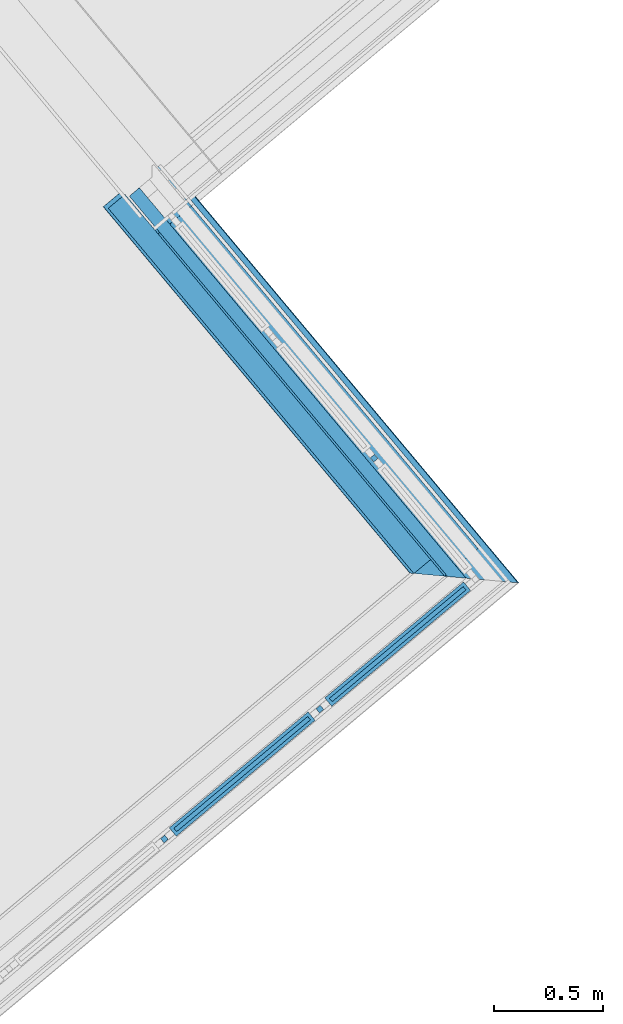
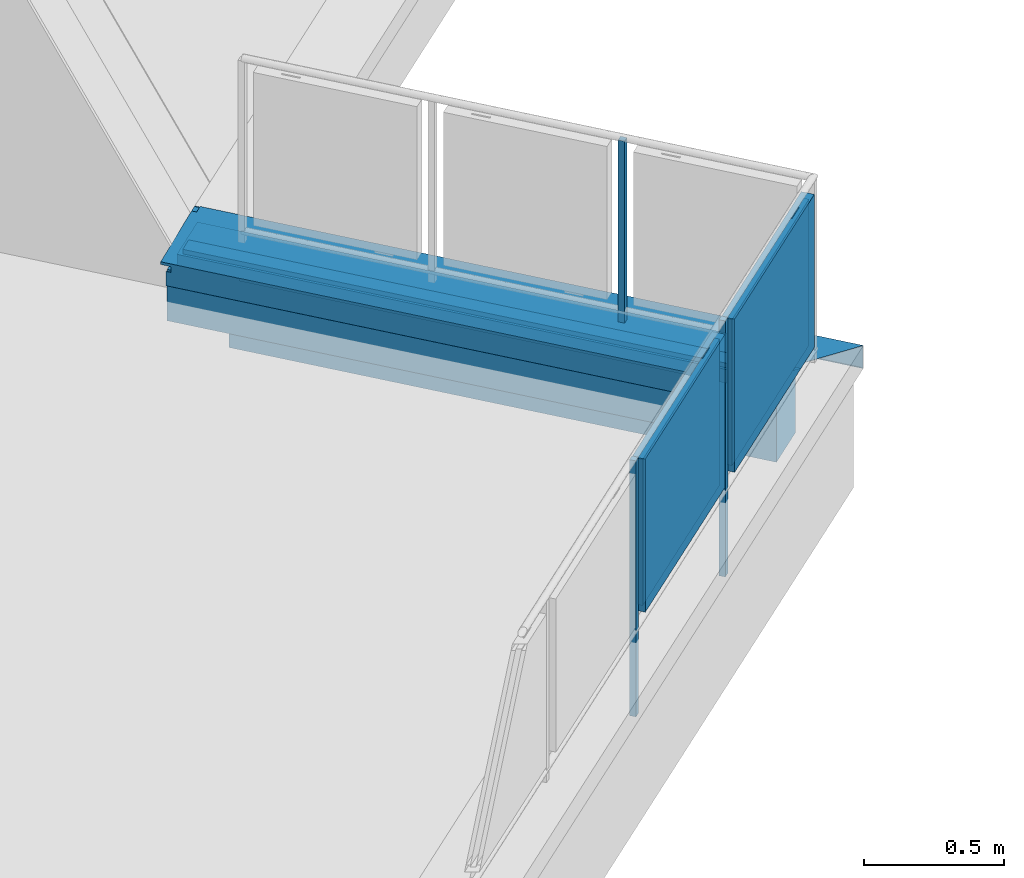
# One storey, part 20 of 58: 13 building element parts, 2 elements without a shape of their own.
"""IFC4 building model written with IfcOpenShell, lengths in metres."""

from ifc_helpers import new_model, entity, si_unit, converted_unit, derived_unit, direction, frame, origin_with_axes, place, context, subcontext, project, spatial, polygons, material, type_object, element, aggregate, save


model = new_model("IFC4")

# Units and contexts
model_context = context("Model", 3, precision=1e-05, world=origin_with_axes(), true_north=direction((0.0, 1.0)))
body_context = subcontext(model_context, "Body", "Model", "MODEL_VIEW")
ifc_project = project(units=[si_unit("LENGTHUNIT", "METRE"), si_unit("AREAUNIT", "SQUARE_METRE"), si_unit("VOLUMEUNIT", "CUBIC_METRE"), converted_unit("PLANEANGLEUNIT", "DEGREE", entity("IfcPlaneAngleMeasure", 0.0174532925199), si_unit("PLANEANGLEUNIT", "RADIAN"), dimensions=[0, 0, 0, 0, 0, 0, 0]), converted_unit("TIMEUNIT", "Year", entity("IfcTimeMeasure", 31556926.0), si_unit("TIMEUNIT", "SECOND"), dimensions=[0, 0, 1, 0, 0, 0, 0]), si_unit("MASSUNIT", "GRAM", prefix="KILO"), si_unit("THERMODYNAMICTEMPERATUREUNIT", "DEGREE_CELSIUS"), si_unit("LUMINOUSINTENSITYUNIT", "LUMEN"), si_unit("ENERGYUNIT", "JOULE", prefix="MEGA"), derived_unit("THERMALCONDUCTANCEUNIT", [(si_unit("POWERUNIT", "WATT"), 1), (si_unit("LENGTHUNIT", "METRE"), -1), (si_unit("THERMODYNAMICTEMPERATUREUNIT", "KELVIN"), -1)]), derived_unit("SPECIFICHEATCAPACITYUNIT", [(si_unit("ENERGYUNIT", "JOULE"), 1), (si_unit("MASSUNIT", "GRAM", prefix="KILO"), -1), (si_unit("THERMODYNAMICTEMPERATUREUNIT", "KELVIN"), -1)]), derived_unit("MASSDENSITYUNIT", [(si_unit("MASSUNIT", "GRAM", prefix="KILO"), 1), (si_unit("VOLUMEUNIT", "CUBIC_METRE"), -1)])], contexts=[model_context])

# Site, building, storey
site_placement = place(None, frame((-0.00153261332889, -0.00661245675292, 0.0), z_axis=(0.0, 0.0, 1.0), x_axis=(1.0, 0.0, 0.0)))
site = spatial("IfcSite", under=ifc_project, at=site_placement, Name="Site", CompositionType="ELEMENT")
building_placement = place(site_placement, origin_with_axes())
building = spatial("IfcBuilding", under=site, at=building_placement, Name="Building", CompositionType="ELEMENT")
storey_placement = place(building_placement, frame((0.0, 0.0, 5.7), z_axis=(0.0, 0.0, 1.0), x_axis=(1.0, 0.0, 0.0)))
storey = spatial("IfcBuildingStorey", under=building, at=storey_placement, Name="DG1", CompositionType="ELEMENT", Elevation=5.7)

# Wall, building element parts
wall_type = type_object("IfcWallType", Name="Bauteil - Attika Balkon 356 x 610", PredefinedType="NOTDEFINED")
wall_placement = place(storey_placement, frame((6.88564428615, 12.1266520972, -0.2), z_axis=(0.0, 0.0, 1.0), x_axis=(-0.641751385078, 0.766912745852, 0.0)))
wall = element("IfcWall", 1, at=wall_placement, inside=storey, type_object=wall_type, Name="Wand-003", PredefinedType="NOTDEFINED")
ifc_material_1 = material(Name="Stahl")
building_element_part_1_placement = place(wall_placement, origin_with_axes())
building_element_part_1 = element("IfcBuildingElementPart", 2, at=building_element_part_1_placement, material=ifc_material_1, Name="Stahl", PredefinedType="NOTDEFINED", context=body_context, shape_type="Tessellation", body=[
    polygons([(2.28816066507, 0.113600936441, 0.497561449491), (2.28816064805, 0.113600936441, 0.49999999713), (2.28816064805, 0.112247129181, 0.49999999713), (2.28816066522, 0.112247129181, 0.498915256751), (2.28816064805, 0.111162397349, 0.49999999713), (2.28816064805, 0.109247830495, 0.49999999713), (2.28816066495, 0.112643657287, 0.496604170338), (0.11366744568, 0.113600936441, 0.497561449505), (0.11366744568, 0.113600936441, 0.498915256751), (0.11366744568, 0.113600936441, 0.499999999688), (0.11366744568, 0.113600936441, 0.506731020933), (0.11366744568, 0.113600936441, 0.509099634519), (0.11366744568, 0.113600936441, 0.511410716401), (0.11366744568, 0.113600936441, 0.519273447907), (0.11366744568, 0.113600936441, 0.560000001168), (0.11366744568, 0.113600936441, 0.575576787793), (0.11366744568, 0.113600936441, 0.57982217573), (0.11366744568, 0.113600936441, 0.581921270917), (0.11366744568, 0.113600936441, 0.584015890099), (0.11366744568, 0.113600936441, 0.586106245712), (0.11366744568, 0.113600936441, 0.595846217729), (0.11366744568, 0.113600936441, 0.597151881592), (2.30819672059, 0.113600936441, 0.597151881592), (2.30855126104, 0.113600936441, 0.585743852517), (2.26892354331, 0.113600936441, 0.58451230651), (2.26901216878, 0.113600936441, 0.560000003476), (2.28816065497, 0.113600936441, 0.560000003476), (2.28816065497, 0.112247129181, 0.560000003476), (2.26901216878, 0.112247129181, 0.560000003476), (2.26892354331, 0.112247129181, 0.58451230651), (2.30855126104, 0.112247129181, 0.585743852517), (2.30823729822, 0.112247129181, 0.595846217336), (0.113666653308, 0.112247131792, 0.595846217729), (0.113666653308, 0.112247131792, 0.586106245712), (0.113666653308, 0.112247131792, 0.584015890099), (0.113666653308, 0.112247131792, 0.581921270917), (0.113666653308, 0.112247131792, 0.57982217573), (0.113666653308, 0.112247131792, 0.575576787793), (0.113666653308, 0.112247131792, 0.560000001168), (0.113666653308, 0.112247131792, 0.519273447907), (0.113666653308, 0.112247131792, 0.511410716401), (0.113666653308, 0.112247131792, 0.509099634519), (0.113666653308, 0.112247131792, 0.506731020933), (0.113666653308, 0.112247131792, 0.499999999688), (0.113666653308, 0.112247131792, 0.498915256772), (0.112312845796, 0.112247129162, 0.498915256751), (0.111227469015, 0.111162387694, 0.499999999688), (0.104492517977, 0.104431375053, 0.506731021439), (2.28816064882, 0.104431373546, 0.506731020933), (2.28816064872, 0.103427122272, 0.505820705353), (0.105402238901, 0.103427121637, 0.505820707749), (0.111226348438, 0.109247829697, 0.499999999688), (0.11231172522, 0.110332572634, 0.498915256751), (0.11366553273, 0.110332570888, 0.498915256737), (0.113666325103, 0.11168637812, 0.497561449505), (0.11270960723, 0.112643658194, 0.496604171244), (0.113645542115, 0.076177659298, 0.597151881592), (2.30791770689, -0.134301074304, 0.606129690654), (-0.201826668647, -0.201708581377, 0.608570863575), (-0.204072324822, -0.203952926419, 0.608652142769), (-0.242849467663, -0.242707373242, 0.610055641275), (2.28816065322, -0.242707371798, 0.610055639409), (2.28816065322, -0.171687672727, 0.607483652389), (2.30787743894, -0.171687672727, 0.607483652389), (2.30791770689, -0.171838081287, 0.606129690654), (2.30787743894, -0.209241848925, 0.607483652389), (2.28816065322, -0.209241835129, 0.607483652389), (2.28816065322, -0.23927649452, 0.608570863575), (-0.201848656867, -0.23927649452, 0.608570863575), (-0.204094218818, -0.24135985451, 0.608652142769), (-0.20409500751, -0.242707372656, 0.608652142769), (2.30791770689, -0.242707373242, 0.606129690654), (2.30787743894, -0.242707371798, 0.607483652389), (2.28816065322, -0.242707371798, 0.607483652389), (-0.241502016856, -0.242707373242, 0.60865214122), (-0.241502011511, -0.242707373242, 0.608570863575), (-0.241501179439, -0.242707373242, 0.595846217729), (-0.241500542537, -0.242707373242, 0.586106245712), (-0.241500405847, -0.242707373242, 0.584015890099), (-0.241500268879, -0.242707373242, 0.581921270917), (-0.241500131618, -0.242707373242, 0.57982217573), (-0.24149985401, -0.242707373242, 0.575576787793), (-0.241498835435, -0.242707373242, 0.560000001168), (-0.241496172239, -0.242707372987, 0.519273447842), (-0.241495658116, -0.242707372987, 0.511410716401), (-0.239581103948, -0.242707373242, 0.511410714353), (-0.240934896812, -0.242707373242, 0.510056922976), (2.05142693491, -0.242707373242, 0.510056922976), (2.05133740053, -0.242707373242, 0.511410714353), (2.05081739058, -0.242707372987, 0.519273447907), (2.04812389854, -0.242707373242, 0.560000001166), (2.04709371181, -0.242707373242, 0.575576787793), (2.04695865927, -0.242707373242, 0.577618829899), (2.04685377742, -0.242707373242, 0.579204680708), (2.04681293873, -0.242707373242, 0.57982217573), (2.04673066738, -0.242707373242, 0.581066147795), (2.04667411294, -0.242707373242, 0.581921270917), (2.04662543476, -0.242707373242, 0.582657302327), (2.04653558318, -0.242707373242, 0.584015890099), (2.04650275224, -0.242707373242, 0.584512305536), (2.04639733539, -0.242707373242, 0.586106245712), (2.04575317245, -0.242707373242, 0.595846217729), (2.04558999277, -0.242707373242, 0.598313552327), (2.04646649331, -0.242707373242, 0.598339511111), (2.28816065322, -0.241359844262, 0.607483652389), (2.28816065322, -0.24135992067, 0.60865214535), (-0.241501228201, -0.241359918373, 0.608652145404), (2.30791770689, -0.241359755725, 0.606129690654), (2.30787743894, -0.241359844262, 0.607483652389), (-0.241501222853, -0.241359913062, 0.608570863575), (-0.241500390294, -0.24135908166, 0.595846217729), (-0.241499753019, -0.24135844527, 0.586106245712), (-0.24149961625, -0.24135830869, 0.584015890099), (-0.241499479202, -0.241358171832, 0.581921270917), (-0.24149934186, -0.241358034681, 0.57982217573), (-0.24149906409, -0.241357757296, 0.575576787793), (-0.241498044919, -0.241356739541, 0.560000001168), (-0.241495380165, -0.241354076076, 0.519273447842), (-0.24149486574, -0.241353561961, 0.511410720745), (-0.239580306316, -0.241353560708, 0.511410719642), (-0.239579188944, -0.239439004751, 0.511410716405), (-0.241891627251, -0.241750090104, 0.509099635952), (2.0514902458, -0.241750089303, 0.509099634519), (2.05145397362, -0.242298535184, 0.509648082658), (2.05145397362, -0.241201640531, 0.509648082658), (2.0513374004, -0.239439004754, 0.511410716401), (2.05133740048, -0.241353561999, 0.511410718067), (2.05081739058, -0.241354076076, 0.519273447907), (2.04812389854, -0.241356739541, 0.560000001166), (2.04709371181, -0.241357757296, 0.575576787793), (2.04695865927, -0.241357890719, 0.577618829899), (2.04685377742, -0.241357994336, 0.579204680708), (2.04681293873, -0.241358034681, 0.57982217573), (2.04673066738, -0.24135811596, 0.581066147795), (2.04667411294, -0.241358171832, 0.581921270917), (2.04662543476, -0.241358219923, 0.582657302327), (2.04653558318, -0.24135830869, 0.584015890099), (2.04650275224, -0.241358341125, 0.584512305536), (2.04639733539, -0.24135844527, 0.586106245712), (2.04575317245, -0.24135908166, 0.595846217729), (2.04558999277, -0.241359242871, 0.598313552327), (2.04646649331, -0.241359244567, 0.598339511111), (2.28816065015, -0.232580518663, 0.518269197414), (2.2881606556, -0.239439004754, 0.511410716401), (2.07316067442, -0.239439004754, 0.511410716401), (-0.232716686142, -0.232580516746, 0.518269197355), (-0.232717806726, -0.234495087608, 0.518269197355), (2.07316068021, -0.241353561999, 0.511410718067), (2.28816064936, -0.241353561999, 0.511410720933), (2.28816065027, -0.233490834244, 0.519273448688), (-0.233627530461, -0.233490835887, 0.519273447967)], [[[1, 2, 3, 4, 5, 6, 7]], [[2, 1, 8, 9, 10, 11, 12, 13, 14, 15, 16, 17, 18, 19, 20, 21, 22, 23, 24, 25, 26, 27]], [[2, 27, 28, 3]], [[4, 3, 28, 29, 30, 31, 32, 33, 34, 35, 36, 37, 38, 39, 40, 41, 42, 43, 44, 45]], [[5, 4, 45, 46, 47, 48, 49]], [[6, 5, 49, 50]], [[7, 6, 50, 51, 52, 53, 54, 55, 56]], [[1, 7, 56, 8]], [[45, 9, 8, 55, 54]], [[10, 9, 45, 44]], [[11, 10, 44, 43]], [[12, 11, 43, 42]], [[13, 12, 42, 41]], [[14, 13, 41, 40]], [[15, 14, 40, 39]], [[16, 15, 39, 38]], [[17, 16, 38, 37]], [[17, 37, 36, 18]], [[19, 18, 36, 35]], [[20, 19, 35, 34]], [[21, 20, 34, 33]], [[22, 21, 33, 57]], [[58, 23, 22, 59, 60, 61, 62, 63, 64]], [[31, 24, 23, 58, 65, 32]], [[30, 25, 24, 31]], [[29, 26, 25, 30]], [[28, 27, 26, 29]], [[32, 65, 66, 67, 68, 69, 57, 33]], [[46, 45, 54, 53]], [[47, 46, 53, 52]], [[51, 48, 47, 52]], [[50, 49, 48, 51]], [[8, 56, 55]], [[22, 57, 69, 59]], [[60, 59, 69, 70]], [[61, 60, 70, 71]], [[72, 73, 74, 62, 61, 71, 75, 76, 77, 78, 79, 80, 81, 82, 83, 84, 85, 86, 87, 88, 89, 90, 91, 92, 93, 94, 95, 96, 97, 98, 99, 100, 101, 102, 103, 104]], [[67, 63, 62, 74, 105, 106, 68]], [[64, 63, 67, 66]], [[58, 64, 66, 65]], [[68, 106, 70, 69]], [[107, 75, 71, 70]], [[108, 109, 73, 72]], [[109, 105, 74, 73]], [[110, 76, 75, 107]], [[110, 111, 77, 76]], [[111, 112, 78, 77]], [[112, 113, 79, 78]], [[113, 114, 80, 79]], [[115, 81, 80, 114]], [[115, 116, 82, 81]], [[116, 117, 83, 82]], [[117, 118, 84, 83]], [[118, 119, 85, 84]], [[119, 120, 86, 85]], [[121, 122, 87, 86, 120]], [[122, 123, 124, 88, 87]], [[125, 126, 127, 89, 88, 124]], [[127, 128, 90, 89]], [[90, 128, 129, 91]], [[129, 130, 92, 91]], [[130, 131, 93, 92]], [[131, 132, 94, 93]], [[132, 133, 95, 94]], [[133, 134, 96, 95]], [[134, 135, 97, 96]], [[135, 136, 98, 97]], [[136, 137, 99, 98]], [[137, 138, 100, 99]], [[138, 139, 101, 100]], [[139, 140, 102, 101]], [[102, 140, 141, 103]], [[141, 142, 104, 103]], [[108, 72, 104, 142]], [[109, 108, 142, 141, 140, 139, 138, 137, 136, 135, 134, 133, 132, 131, 130, 129, 128, 127, 120, 119, 118, 117, 116, 115, 114, 113, 112, 111, 110, 107, 70, 106, 105]], [[143, 144, 145, 126, 125, 123, 122, 121, 146]], [[146, 121, 120, 147]], [[123, 125, 124]], [[127, 126, 145, 148]], [[149, 150, 151, 147, 120, 127, 148]], [[143, 150, 149, 144]], [[144, 149, 148, 145]], [[150, 143, 146, 151]], [[146, 147, 151]]], closed=True),
])
ifc_material_2 = material(Name="Holzwerkstoff")
building_element_part_2_placement = place(wall_placement, origin_with_axes())
building_element_part_2 = element("IfcBuildingElementPart", 3, at=building_element_part_2_placement, material=ifc_material_2, Name="Holzwerkstoff", PredefinedType="NOTDEFINED", context=body_context, shape_type="Tessellation", body=[
    polygons([(2.26892354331, 0.111851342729, 0.58451230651), (2.26895585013, 0.111539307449, 0.575576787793), (0.111604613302, 0.111539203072, 0.575576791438), (0.111752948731, 0.111687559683, 0.579822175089), (0.111826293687, 0.111760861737, 0.581921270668), (0.111899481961, 0.11183400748, 0.584015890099), (0.111972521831, 0.111907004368, 0.586106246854), (0.112312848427, 0.112247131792, 0.5958462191), (2.30823729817, 0.112247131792, 0.5958462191), (2.30855126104, 0.111894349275, 0.585743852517), (2.26894050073, -0.0100326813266, 0.579822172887), (2.26892354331, -0.144340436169, 0.58451230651), (2.26892533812, -0.13012497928, 0.584015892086), (2.26893291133, -0.0701429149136, 0.581921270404), (0.111681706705, -0.0100326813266, 0.579822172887), (0.111719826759, -0.0701429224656, 0.581921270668), (0.111757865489, -0.130124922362, 0.584015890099), (0.111795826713, -0.189984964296, 0.586106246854), (0.111827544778, -0.23999998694, 0.587852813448), (0.112106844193, -0.239720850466, 0.5958462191), (2.30791770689, -0.171838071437, 0.606129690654), (-0.239416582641, -0.239276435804, 0.608570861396), (2.28816065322, -0.23927649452, 0.608570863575), (2.28816065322, -0.209241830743, 0.607483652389), (2.30787743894, -0.209241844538, 0.607483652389), (2.30791770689, -0.239361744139, 0.606129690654), (2.30848571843, -0.23999998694, 0.587852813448), (2.30853999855, -0.189984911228, 0.586106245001), (2.30855126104, -0.179607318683, 0.585743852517), (2.30787743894, -0.239314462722, 0.607483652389), (2.28816065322, -0.23931446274, 0.607483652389)], [[[1, 2, 3, 4, 5, 6, 7, 8, 9, 10]], [[11, 2, 1, 12, 13, 14]], [[2, 11, 15, 3]], [[4, 3, 15]], [[5, 4, 15, 16]], [[6, 5, 16, 17]], [[7, 6, 17, 18]], [[8, 7, 18, 19, 20]], [[21, 9, 8, 22, 23, 24, 25]], [[10, 9, 21, 26, 27, 28, 29]], [[1, 10, 29, 12]], [[13, 12, 29, 28, 18, 17]], [[14, 13, 17, 16]], [[11, 14, 16, 15]], [[18, 28, 27, 19]], [[30, 31, 23, 22, 20, 19, 27, 26]], [[22, 8, 20]], [[31, 24, 23]], [[24, 31, 30, 25]], [[21, 25, 30, 26]]], closed=True),
])
ifc_material_3 = material(Name="EPS 1")
building_element_part_3_placement = place(wall_placement, origin_with_axes())
building_element_part_3 = element("IfcBuildingElementPart", 4, at=building_element_part_3_placement, material=ifc_material_3, Name="EPS 1", PredefinedType="NOTDEFINED", context=body_context, shape_type="Tessellation", body=[
    polygons([(0.100058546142, 0.0999999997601, 0.560000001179), (0.100000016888, -2.39909425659e-10, 0.560000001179), (2.28816065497, -2.39909425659e-10, 0.560000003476), (2.28816065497, 0.0999999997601, 0.560000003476), (0.100000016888, -2.39911202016e-10, 0.519273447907), (0.100058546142, 0.0999999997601, 0.519273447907), (0.100000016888, -2.39911202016e-10, 0.511410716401), (0.100000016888, -2.39911202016e-10, 0.509099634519), (0.100000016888, -2.39911202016e-10, 0.506731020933), (0.100000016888, -2.39911202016e-10, 0.499999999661), (0.100000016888, -2.39911202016e-10, 0.498915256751), (0.100000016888, -2.39911202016e-10, 0.496604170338), (0.100000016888, -2.39911202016e-10, 0.334999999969), (2.28816064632, -2.39911202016e-10, 0.334999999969), (2.28816064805, -2.39909425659e-10, 0.49999999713), (2.28816064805, 0.0999999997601, 0.49999999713), (2.28816064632, 0.0999999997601, 0.334999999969), (0.100058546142, 0.0999999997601, 0.334999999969), (0.100058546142, 0.0999999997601, 0.496604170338), (0.100058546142, 0.0999999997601, 0.498915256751), (0.100058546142, 0.0999999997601, 0.499999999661), (0.100058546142, 0.0999999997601, 0.506731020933), (0.100058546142, 0.0999999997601, 0.509099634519), (0.100058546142, 0.0999999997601, 0.511410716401)], [[[1, 2, 3, 4]], [[5, 2, 1, 6]], [[2, 5, 7, 8, 9, 10, 11, 12, 13, 14, 15, 3]], [[16, 4, 3, 15]], [[6, 1, 4, 16, 17, 18, 19, 20, 21, 22, 23, 24]], [[5, 6, 24, 7]], [[7, 24, 23, 8]], [[8, 23, 22, 9]], [[9, 22, 21, 10]], [[10, 21, 20, 11]], [[11, 20, 19, 12]], [[12, 19, 18, 13]], [[13, 18, 17, 14]], [[16, 15, 14, 17]]], closed=True),
])
ifc_material_4 = material(Name="Vollholz")
building_element_part_4_placement = place(wall_placement, origin_with_axes())
building_element_part_4 = element("IfcBuildingElementPart", 5, at=building_element_part_4_placement, material=ifc_material_4, Name="Vollholz", PredefinedType="NOTDEFINED", context=body_context, shape_type="Tessellation", body=[
    polygons([(-0.0100385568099, -0.0100326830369, 0.579822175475), (-0.0701839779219, -0.0701429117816, 0.581921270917), (2.26893291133, -0.0701429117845, 0.581921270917), (2.26894050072, -0.0100326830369, 0.579822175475), (-0.0100737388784, -0.0701429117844, 0.579822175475), (-0.0100973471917, -0.0701429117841, 0.575576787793), (-0.010183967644, -0.0701429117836, 0.560000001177), (2.26901216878, -0.0701429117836, 0.560000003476), (2.26901216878, -0.0101429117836, 0.560000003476), (-0.0100621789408, -0.0100562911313, 0.575576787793), (-0.0101488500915, -0.0101429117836, 0.560000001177)], [[[1, 2, 3, 4]], [[5, 2, 1]], [[2, 5, 6, 7, 8, 3]], [[9, 4, 3, 8]], [[10, 1, 4, 9, 11]], [[5, 1, 10, 6]], [[6, 10, 11, 7]], [[7, 11, 9, 8]]], closed=True),
])
ifc_material_5 = material(Name="Stahlbeton")
building_element_part_5_placement = place(wall_placement, origin_with_axes())
building_element_part_5 = element("IfcBuildingElementPart", 6, at=building_element_part_5_placement, material=ifc_material_5, Name="Stahlbeton", PredefinedType="NOTDEFINED", context=body_context, shape_type="Tessellation", body=[
    polygons([(2.05176382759, -0.19999996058, 0.498951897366), (2.0507455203, -0.19999996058, 0.499843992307), (2.05073521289, -0.19999996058, 0.499999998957), (-0.000117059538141, -0.19999996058, 0.500000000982), (-0.00011705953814, -0.19999996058, 0.498915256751), (-0.00011705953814, -0.19999996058, 0.496604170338), (-0.00011705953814, -0.19999996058, 0.334999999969), (-0.000117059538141, -0.19999996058, 0.2), (2.08816069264, -0.19999996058, 0.2), (2.08816069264, -0.19999996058, 0.334999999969), (2.08816069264, -0.19999996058, 0.496604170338), (2.08816069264, -0.19999996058, 0.498915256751), (2.0881606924, -0.19999996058, 0.498951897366), (2.07316067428, -0.19999996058, 0.498951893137), (2.05176382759, -1.0529745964e-09, 0.498951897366), (2.0507455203, -1.0529745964e-09, 0.499843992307), (2.05073521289, -1.0529745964e-09, 0.499999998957), (-1.05358921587e-09, -1.05297282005e-09, 0.500000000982), (-1.05358921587e-09, -1.05297282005e-09, 0.498915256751), (-1.05358921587e-09, -1.05297282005e-09, 0.496604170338), (-1.05358921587e-09, -1.05297282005e-09, 0.334999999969), (-1.05358921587e-09, -1.05297282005e-09, 0.2), (2.08816069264, -1.0529745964e-09, 0.2), (2.08816069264, -1.0529745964e-09, 0.334999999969), (2.08816069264, -1.0529745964e-09, 0.496604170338), (2.08816069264, -1.0529745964e-09, 0.498915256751), (2.0881606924, -1.0529745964e-09, 0.498951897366), (2.07316067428, -1.0529745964e-09, 0.498951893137)], [[[1, 2, 3, 4, 5, 6, 7, 8, 9, 10, 11, 12, 13, 14]], [[2, 1, 15, 16]], [[17, 3, 2, 16]], [[3, 17, 18, 4]], [[5, 4, 18, 19]], [[5, 19, 20, 6]], [[6, 20, 21, 7]], [[7, 21, 22, 8]], [[23, 9, 8, 22]], [[24, 10, 9, 23]], [[25, 11, 10, 24]], [[26, 12, 11, 25]], [[27, 13, 12, 26]], [[28, 14, 13, 27]], [[15, 1, 14, 28]], [[16, 15, 28, 27, 26, 25, 24, 21, 20, 19, 18, 17]], [[24, 23, 22, 21]]], closed=True),
])
ifc_material_6 = material(Name="Brettschichtholz")
building_element_part_6_placement = place(wall_placement, origin_with_axes())
building_element_part_6 = element("IfcBuildingElementPart", 7, at=building_element_part_6_placement, material=ifc_material_6, Name="Brettschichtholz", PredefinedType="NOTDEFINED", context=body_context, shape_type="Tessellation", body=[
    polygons([(-0.000111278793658, -0.190124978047, 0.560000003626), (-0.000125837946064, -0.214999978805, 0.560000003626), (2.28816065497, -0.214999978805, 0.560000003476), (2.28816065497, -0.190124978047, 0.560000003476), (-0.000125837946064, -0.214999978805, 0.519273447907), (-7.61612388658e-05, -0.130124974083, 0.560000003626), (-4.10541848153e-05, -0.0701429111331, 0.560000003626), (-5.93663490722e-06, -0.010142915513, 0.560000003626), (0.0, 0.0, 0.560000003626), (0.0, 0.0, 0.519273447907), (-0.000125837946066, -0.214999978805, 0.511410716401), (-0.000125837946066, -0.214999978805, 0.509099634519), (-0.000125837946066, -0.214999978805, 0.506731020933), (-0.000125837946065, -0.214999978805, 0.499999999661), (2.05073521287, -0.214999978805, 0.499999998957), (2.05065037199, -0.214999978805, 0.501284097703), (2.05029049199, -0.214999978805, 0.506731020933), (2.05013399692, -0.214999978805, 0.509099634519), (2.05149024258, -0.214999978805, 0.509099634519), (2.05885392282, -0.214999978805, 0.509099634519), (2.05933439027, -0.214999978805, 0.509648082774), (2.07316068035, -0.214999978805, 0.509648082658), (2.2881606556, -0.214999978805, 0.509648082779), (2.2881606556, 0.0, 0.509648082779), (2.28816065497, 0.0, 0.560000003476), (2.28816065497, -0.010142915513, 0.560000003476), (2.28816065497, -0.0701429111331, 0.560000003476), (2.28816065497, -0.130124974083, 0.560000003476), (2.07316068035, 0.0, 0.509648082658), (2.05933439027, 0.0, 0.509648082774), (2.05885392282, 0.0, 0.509099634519), (2.05149024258, 0.0, 0.509099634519), (2.05013399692, 0.0, 0.509099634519), (2.05029049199, 0.0, 0.506731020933), (2.05065037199, 0.0, 0.501284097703), (2.05073521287, 0.0, 0.499999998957), (0.0, 0.0, 0.499999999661), (0.0, 0.0, 0.506731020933), (0.0, 0.0, 0.509099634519), (0.0, 0.0, 0.511410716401)], [[[1, 2, 3, 4]], [[5, 2, 1, 6, 7, 8, 9, 10]], [[2, 5, 11, 12, 13, 14, 15, 16, 17, 18, 19, 20, 21, 22, 23, 3]], [[23, 24, 25, 26, 27, 28, 4, 3]], [[6, 1, 4, 28]], [[7, 6, 28, 27]], [[8, 7, 27, 26]], [[9, 8, 26, 25]], [[10, 9, 25, 24, 29, 30, 31, 32, 33, 34, 35, 36, 37, 38, 39, 40]], [[5, 10, 40, 11]], [[11, 40, 39, 12]], [[12, 39, 38, 13]], [[13, 38, 37, 14]], [[36, 15, 14, 37]], [[35, 16, 15, 36]], [[34, 17, 16, 35]], [[18, 17, 34, 33]], [[19, 18, 33, 32]], [[31, 20, 19, 32]], [[21, 20, 31, 30]], [[21, 30, 29, 22]], [[22, 29, 24, 23]]], closed=True),
])
aggregate(wall, [building_element_part_1, building_element_part_2, building_element_part_3, building_element_part_4, building_element_part_5, building_element_part_6])

# Railing, building element parts
railing_type = type_object("IfcRailingType", Name="Geländerart", PredefinedType="NOTDEFINED")
railing_placement = place(storey_placement, frame((-1.26757951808, 10.1438545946, 0.38), z_axis=(0.0, 0.0, 1.0), x_axis=(1.0, 0.0, 0.0)))
railing = element("IfcRailing", 8, at=railing_placement, inside=storey, type_object=railing_type, Name="Geländer - 001", PredefinedType="NOTDEFINED")
ifc_material_7 = material(Name="Aluminium")
building_element_part_7_placement = place(railing_placement, origin_with_axes())
building_element_part_7 = element("IfcBuildingElementPart", 9, at=building_element_part_7_placement, material=ifc_material_7, Name="Aluminium", PredefinedType="NOTDEFINED", context=body_context, shape_type="Tessellation", body=[
    polygons([(6.8836808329, 0.773895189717, -0.3), (6.86765100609, 0.793079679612, -0.3), (6.86765100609, 0.793079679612, 0.82), (6.8836808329, 0.773895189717, 0.82), (6.86449634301, 0.75786536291, -0.3), (6.8484665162, 0.777049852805, -0.3), (6.8484665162, 0.777049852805, 0.82), (6.86449634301, 0.75786536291, 0.82)], [[[1, 2, 3, 4]], [[1, 5, 6, 2]], [[2, 6, 7, 3]], [[4, 3, 7, 8]], [[5, 1, 4, 8]], [[6, 5, 8, 7]]], closed=True),
])
ifc_material_8 = material(Name="Profilit")
building_element_part_8_placement = place(railing_placement, origin_with_axes())
building_element_part_8 = element("IfcBuildingElementPart", 10, at=building_element_part_8_placement, material=ifc_material_8, Name="Profilit", PredefinedType="NOTDEFINED", context=body_context, shape_type="Tessellation", body=[
    polygons([(7.52418472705, 1.33839633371, 0.135), (6.90954141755, 0.824823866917, 0.135), (6.90954141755, 0.824823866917, 0.775), (7.52418472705, 1.33839633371, 0.775), (6.922365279, 0.809476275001, 0.135), (7.5370085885, 1.32304874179, 0.135), (6.922365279, 0.809476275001, 0.775), (7.5370085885, 1.32304874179, 0.775)], [[[1, 2, 3, 4]], [[5, 2, 1, 6]], [[7, 3, 2, 5]], [[4, 3, 7, 8]], [[1, 4, 8, 6]], [[7, 5, 6, 8]]], closed=True),
])
building_element_part_9_placement = place(railing_placement, origin_with_axes())
building_element_part_9 = element("IfcBuildingElementPart", 11, at=building_element_part_9_placement, material=ifc_material_7, Name="Aluminium", PredefinedType="NOTDEFINED", context=body_context, shape_type="Tessellation", body=[
    polygons([(6.97957763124, 0.873569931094, 0.12), (7.03329420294, 0.918453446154, 0.12), (7.03329420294, 0.918453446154, 0.095), (6.97957763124, 0.873569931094, 0.095), (6.9827835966, 0.869733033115, 0.12), (7.03650016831, 0.914616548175, 0.12), (7.03650016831, 0.914616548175, 0.095), (6.9827835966, 0.869733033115, 0.095)], [[[1, 2, 3, 4]], [[5, 6, 2, 1]], [[2, 6, 7, 3]], [[4, 3, 7, 8]], [[1, 4, 8, 5]], [[8, 7, 6, 5]]], closed=True),
    polygons([(7.46376640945, 1.27813957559, 0.79), (7.41004983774, 1.23325606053, 0.79), (7.41004983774, 1.23325606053, 0.795), (7.46376640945, 1.27813957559, 0.795), (7.46697237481, 1.27430267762, 0.79), (7.41325580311, 1.22941916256, 0.79), (7.41325580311, 1.22941916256, 0.795), (7.46697237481, 1.27430267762, 0.795)], [[[1, 2, 3, 4]], [[5, 6, 2, 1]], [[2, 6, 7, 3]], [[4, 3, 7, 8]], [[1, 4, 8, 5]], [[8, 7, 6, 5]]], closed=True),
    polygons([(6.92047248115, 0.78834768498, 0.12), (6.88841282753, 0.82671666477, 0.12), (7.5260775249, 1.35952492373, 0.12), (7.55813717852, 1.32115594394, 0.12), (6.93582007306, 0.801171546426, 0.14), (6.92620217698, 0.812682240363, 0.14), (6.922365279, 0.809476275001, 0.135), (6.90954141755, 0.824823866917, 0.135), (6.91337831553, 0.828029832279, 0.14), (6.90376041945, 0.839540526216, 0.14), (7.51072993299, 1.34670106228, 0.14), (7.51072993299, 1.34670106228, 0.77), (6.90376041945, 0.839540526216, 0.77), (6.90376041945, 0.839540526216, 0.14), (6.88841282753, 0.82671666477, 0.12), (6.88841282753, 0.82671666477, 0.79), (7.5260775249, 1.35952492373, 0.79), (7.55813717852, 1.32115594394, 0.79), (6.92047248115, 0.78834768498, 0.79), (6.92047248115, 0.78834768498, 0.12), (6.93582007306, 0.801171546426, 0.14), (6.93582007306, 0.801171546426, 0.77), (7.5427895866, 1.30833208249, 0.77), (7.5427895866, 1.30833208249, 0.14), (7.53317169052, 1.31984277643, 0.14), (7.53317169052, 1.31984277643, 0.77), (6.92620217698, 0.812682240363, 0.77), (6.92620217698, 0.812682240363, 0.14), (6.922365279, 0.809476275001, 0.135), (6.922365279, 0.809476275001, 0.775), (7.5370085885, 1.32304874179, 0.775), (7.5370085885, 1.32304874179, 0.135), (7.52418472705, 1.33839633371, 0.135), (7.52418472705, 1.33839633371, 0.775), (6.90954141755, 0.824823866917, 0.775), (6.90954141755, 0.824823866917, 0.135), (6.91337831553, 0.828029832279, 0.14), (6.91337831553, 0.828029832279, 0.77), (7.52034782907, 1.33519036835, 0.77), (7.52034782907, 1.33519036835, 0.14)], [[[1, 2, 3, 4]], [[1, 5, 6, 7, 8, 9, 10, 2]], [[2, 10, 11, 12, 13, 14, 15, 16, 17, 3]], [[4, 3, 17, 18]], [[5, 1, 4, 18, 19, 20, 21, 22, 23, 24]], [[6, 5, 24, 25]], [[7, 6, 25, 26, 27, 28, 29, 30, 31, 32]], [[8, 7, 32, 33]], [[9, 8, 33, 34, 35, 36, 37, 38, 39, 40]], [[10, 9, 40, 11]], [[11, 40, 39, 12]], [[12, 39, 38, 13]], [[13, 38, 37, 14]], [[20, 15, 14, 37, 36, 29, 28, 21]], [[19, 16, 15, 20]], [[18, 17, 16, 19]], [[27, 22, 21, 28]], [[26, 23, 22, 27]], [[25, 24, 23, 26]], [[35, 30, 29, 36]], [[34, 31, 30, 35]], [[33, 32, 31, 34]]], closed=True),
])
building_element_part_10_placement = place(railing_placement, origin_with_axes())
building_element_part_10 = element("IfcBuildingElementPart", 12, at=building_element_part_10_placement, material=ifc_material_7, Name="Aluminium", PredefinedType="NOTDEFINED", context=body_context, shape_type="Tessellation", body=[
    polygons([(7.59808348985, 1.3708227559, -0.3), (7.58205366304, 1.3900072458, -0.3), (7.58205366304, 1.3900072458, 0.82), (7.59808348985, 1.3708227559, 0.82), (7.57889899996, 1.3547929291, -0.3), (7.56286917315, 1.37397741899, -0.3), (7.56286917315, 1.37397741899, 0.82), (7.57889899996, 1.3547929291, 0.82)], [[[1, 2, 3, 4]], [[1, 5, 6, 2]], [[2, 6, 7, 3]], [[4, 3, 7, 8]], [[5, 1, 4, 8]], [[6, 5, 8, 7]]], closed=True),
])
building_element_part_11_placement = place(railing_placement, origin_with_axes())
building_element_part_11 = element("IfcBuildingElementPart", 13, at=building_element_part_11_placement, material=ifc_material_8, Name="Profilit", PredefinedType="NOTDEFINED", context=body_context, shape_type="Tessellation", body=[
    polygons([(8.238587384, 1.9353238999, 0.135), (7.6239440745, 1.42175143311, 0.135), (7.6239440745, 1.42175143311, 0.775), (8.238587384, 1.9353238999, 0.775), (7.63676793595, 1.40640384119, 0.135), (8.25141124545, 1.91997630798, 0.135), (7.63676793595, 1.40640384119, 0.775), (8.25141124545, 1.91997630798, 0.775)], [[[1, 2, 3, 4]], [[5, 2, 1, 6]], [[7, 3, 2, 5]], [[4, 3, 7, 8]], [[1, 4, 8, 6]], [[7, 5, 6, 8]]], closed=True),
])
building_element_part_12_placement = place(railing_placement, origin_with_axes())
building_element_part_12 = element("IfcBuildingElementPart", 14, at=building_element_part_12_placement, material=ifc_material_7, Name="Aluminium", PredefinedType="NOTDEFINED", context=body_context, shape_type="Tessellation", body=[
    polygons([(7.69398028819, 1.47049749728, 0.12), (7.7476968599, 1.51538101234, 0.12), (7.7476968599, 1.51538101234, 0.095), (7.69398028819, 1.47049749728, 0.095), (7.69718625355, 1.4666605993, 0.12), (7.75090282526, 1.51154411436, 0.12), (7.75090282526, 1.51154411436, 0.095), (7.69718625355, 1.4666605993, 0.095)], [[[1, 2, 3, 4]], [[5, 6, 2, 1]], [[2, 6, 7, 3]], [[4, 3, 7, 8]], [[1, 4, 8, 5]], [[8, 7, 6, 5]]], closed=True),
    polygons([(8.1781690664, 1.87506714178, 0.79), (8.1244524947, 1.83018362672, 0.79), (8.1244524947, 1.83018362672, 0.795), (8.1781690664, 1.87506714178, 0.795), (8.18137503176, 1.8712302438, 0.79), (8.12765846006, 1.82634672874, 0.79), (8.12765846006, 1.82634672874, 0.795), (8.18137503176, 1.8712302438, 0.795)], [[[1, 2, 3, 4]], [[5, 6, 2, 1]], [[2, 6, 7, 3]], [[4, 3, 7, 8]], [[1, 4, 8, 5]], [[8, 7, 6, 5]]], closed=True),
    polygons([(7.6348751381, 1.38527525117, 0.12), (7.60281548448, 1.42364423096, 0.12), (8.24048018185, 1.95645248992, 0.12), (8.27253983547, 1.91808351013, 0.12), (7.65022273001, 1.39809911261, 0.14), (7.64060483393, 1.40960980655, 0.14), (7.63676793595, 1.40640384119, 0.135), (7.6239440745, 1.42175143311, 0.135), (7.62778097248, 1.42495739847, 0.14), (7.6181630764, 1.4364680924, 0.14), (8.22513258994, 1.94362862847, 0.14), (8.22513258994, 1.94362862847, 0.77), (7.6181630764, 1.4364680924, 0.77), (7.6181630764, 1.4364680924, 0.14), (7.60281548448, 1.42364423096, 0.12), (7.60281548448, 1.42364423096, 0.79), (8.24048018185, 1.95645248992, 0.79), (8.27253983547, 1.91808351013, 0.79), (7.6348751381, 1.38527525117, 0.79), (7.6348751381, 1.38527525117, 0.12), (7.65022273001, 1.39809911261, 0.14), (7.65022273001, 1.39809911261, 0.77), (8.25719224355, 1.90525964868, 0.77), (8.25719224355, 1.90525964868, 0.14), (8.24757434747, 1.91677034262, 0.14), (8.24757434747, 1.91677034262, 0.77), (7.64060483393, 1.40960980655, 0.77), (7.64060483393, 1.40960980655, 0.14), (7.63676793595, 1.40640384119, 0.135), (7.63676793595, 1.40640384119, 0.775), (8.25141124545, 1.91997630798, 0.775), (8.25141124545, 1.91997630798, 0.135), (8.238587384, 1.9353238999, 0.135), (8.238587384, 1.9353238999, 0.775), (7.6239440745, 1.42175143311, 0.775), (7.6239440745, 1.42175143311, 0.135), (7.62778097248, 1.42495739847, 0.14), (7.62778097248, 1.42495739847, 0.77), (8.23475048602, 1.93211793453, 0.77), (8.23475048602, 1.93211793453, 0.14)], [[[1, 2, 3, 4]], [[1, 5, 6, 7, 8, 9, 10, 2]], [[2, 10, 11, 12, 13, 14, 15, 16, 17, 3]], [[4, 3, 17, 18]], [[5, 1, 4, 18, 19, 20, 21, 22, 23, 24]], [[6, 5, 24, 25]], [[7, 6, 25, 26, 27, 28, 29, 30, 31, 32]], [[8, 7, 32, 33]], [[9, 8, 33, 34, 35, 36, 37, 38, 39, 40]], [[10, 9, 40, 11]], [[11, 40, 39, 12]], [[12, 39, 38, 13]], [[13, 38, 37, 14]], [[20, 15, 14, 37, 36, 29, 28, 21]], [[19, 16, 15, 20]], [[18, 17, 16, 19]], [[27, 22, 21, 28]], [[26, 23, 22, 27]], [[25, 24, 23, 26]], [[35, 30, 29, 36]], [[34, 31, 30, 35]], [[33, 32, 31, 34]]], closed=True),
])
building_element_part_13_placement = place(railing_placement, origin_with_axes())
building_element_part_13 = element("IfcBuildingElementPart", 15, at=building_element_part_13_placement, material=ifc_material_7, Name="Aluminium", PredefinedType="NOTDEFINED", context=body_context, shape_type="Tessellation", body=[
    polygons([(7.83113605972, 2.54290884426, -0.3), (7.81196441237, 2.52686366, -0.3), (7.81196441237, 2.52686366, 0.82), (7.83113605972, 2.54290884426, 0.82), (7.84718124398, 2.52373719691, -0.3), (7.82800959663, 2.50769201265, -0.3), (7.82800959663, 2.50769201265, 0.82), (7.84718124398, 2.52373719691, 0.82)], [[[1, 2, 3, 4]], [[1, 5, 6, 2]], [[2, 6, 7, 3]], [[4, 3, 7, 8]], [[5, 1, 4, 8]], [[6, 5, 8, 7]]], closed=True),
])
aggregate(railing, [building_element_part_7, building_element_part_8, building_element_part_9, building_element_part_10, building_element_part_11, building_element_part_12, building_element_part_13])

save(model, "model.ifc")
